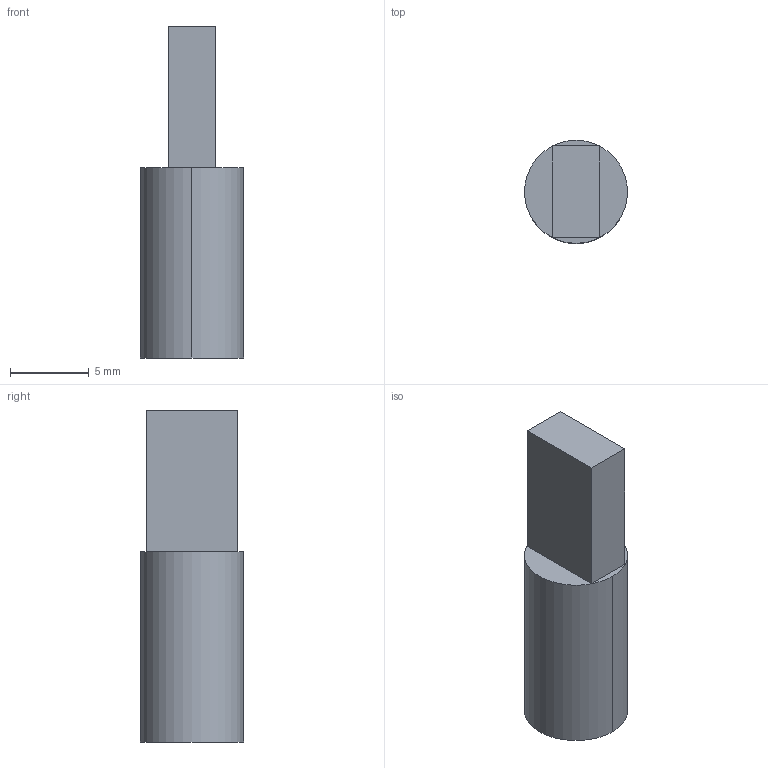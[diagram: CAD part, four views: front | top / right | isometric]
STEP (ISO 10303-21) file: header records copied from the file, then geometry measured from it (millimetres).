
FILE_DESCRIPTION(/* description */ ('VariCAD 2010-3.03 AP-214'),/* implementation_level */ '2;1');
FILE_NAME(/* name */ '0353-04-31',/* time_stamp */ '2011-01-20T23:13:05-07:00',/* author */ (''),/* organization */ (''),/* preprocessor_version */ 'ST-DEVELOPER v12',/* originating_system */ 'VariCAD 2010-3.03; kernel version (20100102)',/* authorisation */ '');
FILE_SCHEMA (('AUTOMOTIVE_DESIGN'));
Length unit declared in the file: millimetre
Products named in the file (1): Part
Bounding box: 6.55 x 6.55 x 21.1 mm (x, y, z)
Volume: 551.7 mm3; surface area: 487.3 mm2
Topology: 1 solids, 1 shells, 12 faces, 24 edges, 16 vertices
Faces by surface type: plane 8, cylinder 4
Entity records: 401 total; most frequent: DIRECTION 60, CARTESIAN_POINT 54, ORIENTED_EDGE 48, EDGE_CURVE 24, AXIS2_PLACEMENT_3D 22, LINE 16, VECTOR 16, VERTEX_POINT 16
